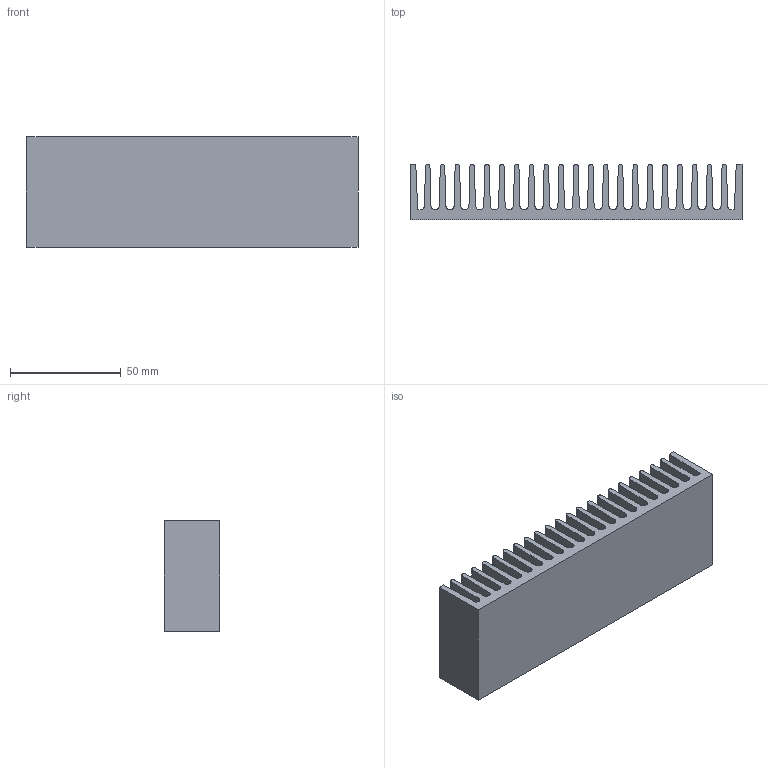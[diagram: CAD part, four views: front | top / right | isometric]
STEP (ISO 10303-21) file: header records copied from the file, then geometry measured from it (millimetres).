
FILE_DESCRIPTION (( 'STEP AP203' ), '1' );
FILE_NAME ('PR 148-50.step', '2002-10-20T23:44:52', ( 'Wolfgang Müller' ), ( 'DPS' ), 'SwSTEP 2.0', 'SolidWorks 2002264', '' );
FILE_SCHEMA (( 'CONFIG_CONTROL_DESIGN' ));
Length unit declared in the file: millimetre
Products named in the file (1): PR 148-50
Bounding box: 150 x 25 x 50 mm (x, y, z)
Volume: 94870.6 mm3; surface area: 62799.4 mm2
Topology: 1 solids, 1 shells, 96 faces, 282 edges, 188 vertices
Faces by surface type: plane 53, cylinder 43
Entity records: 3289 total; most frequent: CARTESIAN_POINT 567, ORIENTED_EDGE 564, DIRECTION 562, EDGE_CURVE 282, LINE 196, VECTOR 196, VERTEX_POINT 188, AXIS2_PLACEMENT_3D 183
